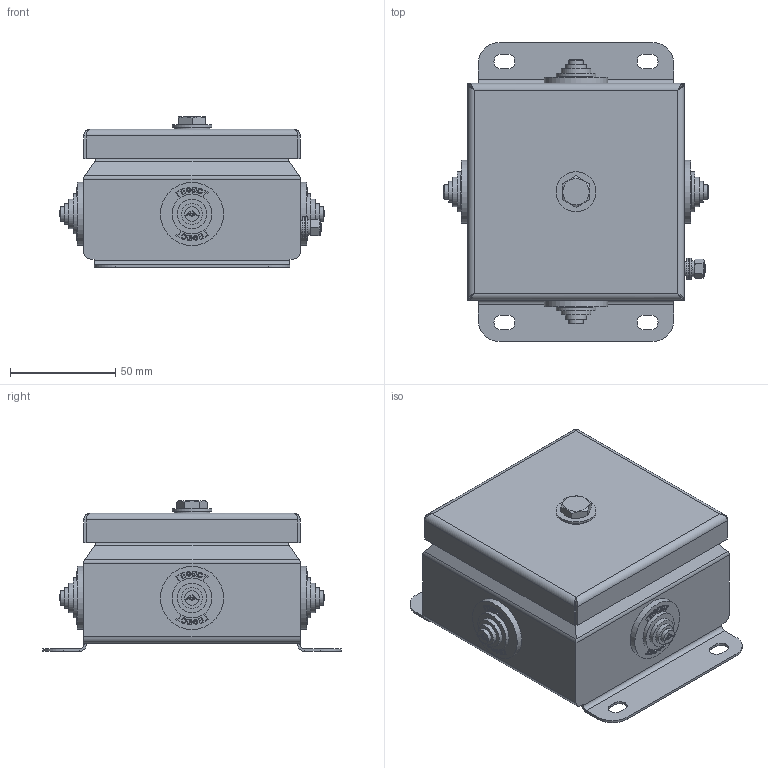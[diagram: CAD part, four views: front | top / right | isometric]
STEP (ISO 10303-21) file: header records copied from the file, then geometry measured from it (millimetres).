
FILE_DESCRIPTION(('STEP AP203'), '1');
FILE_NAME('Êîðîáêà 1010 IP55', '', ('UNSPECIFIED'), ('UNSPECIFIED'), 'ASCON STEP Converter 1.6', 'ASCON Math Kernel', '');
FILE_SCHEMA(('CONFIG_CONTROL_DESIGN'));
Length unit declared in the file: millimetre
Bounding box: 125.5 x 142 x 71.7 mm (x, y, z)
Volume: 646748.6 mm3; surface area: 68892.4 mm2
Topology: 1 solids, 1 shells, 891 faces, 2278 edges, 1491 vertices
Faces by surface type: plane 645, extrusion 144, cylinder 81, cone 11, bspline 8, torus 2
Full cylindrical faces by diameter (mm): 3.7 x1, 5 x2, 5.5 x2, 6.5 x1, 7 x4, 10 x6, 14 x4, 17 x1, 19 x5, 30 x4
Entity records: 36495 total; most frequent: CARTESIAN_POINT 8512, ORIENTED_EDGE 4482, DIRECTION 3624, EDGE_CURVE 2241, VECTOR 1878, LINE 1734, VERTEX_POINT 1491, EDGE_LOOP 1040
